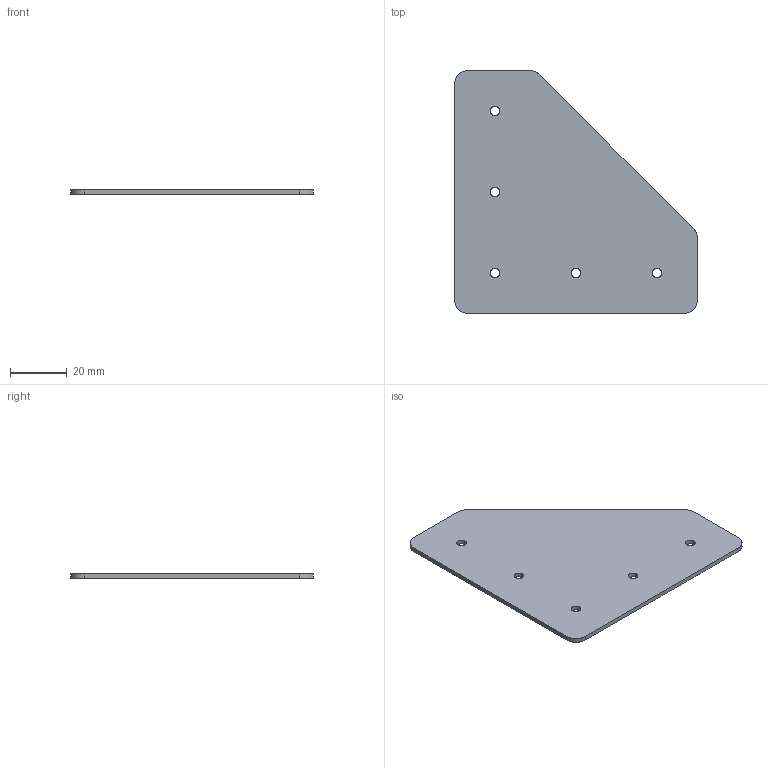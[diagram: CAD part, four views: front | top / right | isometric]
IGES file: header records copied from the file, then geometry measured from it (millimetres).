
Start section: SolidWorks IGES file using analytic representation for surfaces
Global section: file name: C:\Working\Gusset Convert\DRP-002-0003-01.igs; native system: SolidWorks 2010; preprocessor: SolidWorks 2010; author: mbush2; date: 100623.154037; units: inch
Bounding box: 85.72 x 85.72 x 1.59 mm (x, y, z)
Surface area: 11876.6 mm2 (no closed solid volume)
Topology: 0 solids, 0 shells, 22 faces, 474 edges, 474 vertices
Faces by surface type: revolution 15, bspline 7
